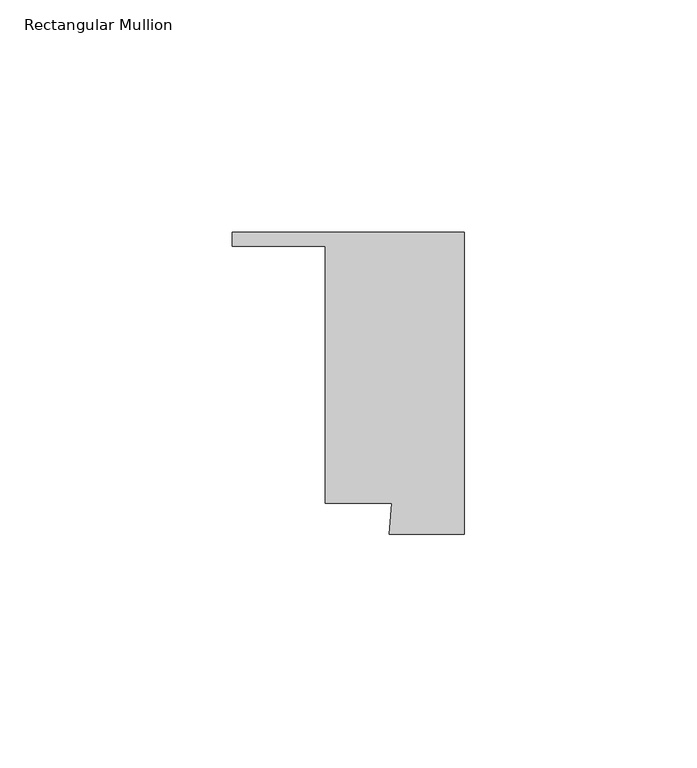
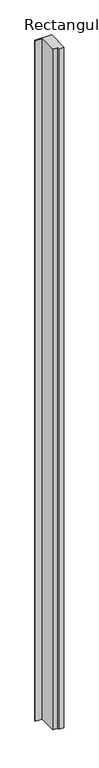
"""IFC4 building model written with IfcOpenShell, lengths in millimetres: member geometry, Rectangular Mullion : MCGRORY - Forster Fuego Light - 60 Min Rated - Door Mullion A Middle."""

from ifc_helpers import new_model, si_unit, frame, origin, place, context, project, spatial, polyline, outline, extrude, source, transform, mapped, element, save


def rectangular_mullion_f07b3b6d(model_context):
    return source(origin(), model_context, "Body", "SweptSolid", [
        extrude(outline(polyline([(-24.9890639, 32.485783), (24.9890639, 32.485783), (24.9890639, -32.485783), (8.8135259, -32.485783), (9.3906985, -25.8886702), (-4.9978128, -25.8886702), (-4.9978128, 29.4870954), (-24.9890639, 29.4870954), (-24.9890639, 32.485783)])), frame((0.0, 0.0, -2163.6), z_axis=(0.0, 0.0, 1.0), x_axis=(1.0, 0.0, 0.0)), (0.0, 0.0, 1.0), 2163.6),
    ])


if __name__ == "__main__":
    model = new_model("IFC4")
    model_context = context("Model", 3, world=origin())
    ifc_project = project(units=[si_unit("LENGTHUNIT", "METRE", prefix="MILLI")], contexts=[model_context])
    site = spatial("IfcSite", under=ifc_project)
    building = spatial("IfcBuilding", under=site)
    placement = place(None, origin())
    rectangular_mullion_shape = rectangular_mullion_f07b3b6d(model_context)
    element("IfcMember", 1, ObjectType="Rectangular Mullion : MCGRORY - Forster Fuego Light - 60 Min Rated - Door Mullion A Middle", at=placement, inside=building, context=model_context, shape_type="MappedRepresentation", body=[
        mapped(rectangular_mullion_shape, transform((0.0, 0.0, 0.0), x_axis=(1.0, 0.0, 0.0), y_axis=(0.0, 1.0, 0.0), z_axis=(0.0, 0.0, 1.0))),
    ])
    save(model, "model.ifc")
